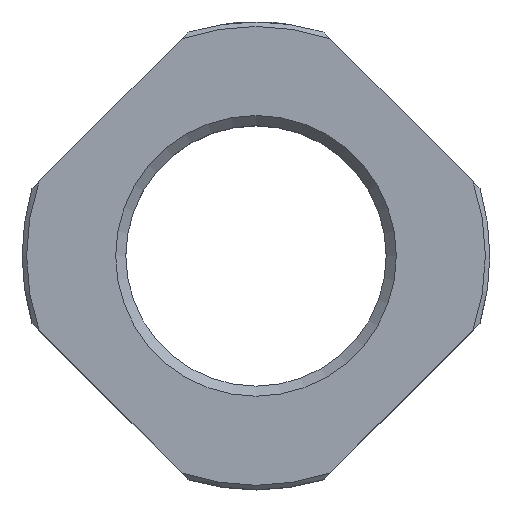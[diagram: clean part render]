
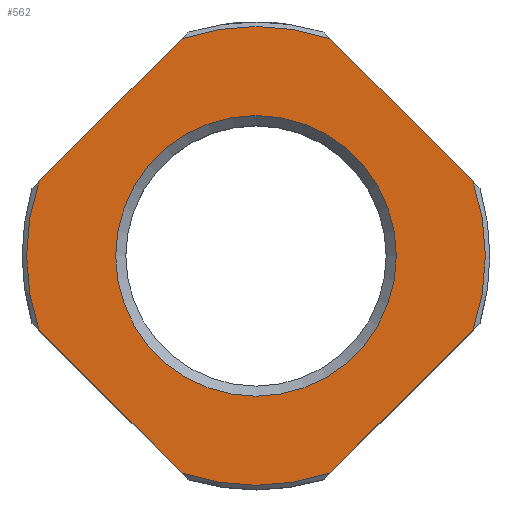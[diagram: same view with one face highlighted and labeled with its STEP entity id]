
A CAD part, top view. The second image highlights one B-rep face of the part: STEP entity #562.
In plain terms, the highlighted planar face has unit normal (0, 0, 1).
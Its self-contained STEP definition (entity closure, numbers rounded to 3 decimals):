
#32=PLANE('',#617);
#50=LINE('',#878,#84);
#51=LINE('',#882,#85);
#52=LINE('',#886,#86);
#53=LINE('',#890,#87);
#84=VECTOR('',#697,1000.);
#85=VECTOR('',#700,1000.);
#86=VECTOR('',#703,1000.);
#87=VECTOR('',#706,1000.);
#146=ORIENTED_EDGE('',*,*,#300,.F.);
#147=ORIENTED_EDGE('',*,*,#301,.T.);
#148=ORIENTED_EDGE('',*,*,#302,.F.);
#149=ORIENTED_EDGE('',*,*,#303,.T.);
#150=ORIENTED_EDGE('',*,*,#304,.F.);
#151=ORIENTED_EDGE('',*,*,#305,.T.);
#152=ORIENTED_EDGE('',*,*,#306,.F.);
#153=ORIENTED_EDGE('',*,*,#307,.T.);
#154=ORIENTED_EDGE('',*,*,#308,.T.);
#300=EDGE_CURVE('',#378,#379,#430,.T.);
#301=EDGE_CURVE('',#378,#380,#50,.T.);
#302=EDGE_CURVE('',#381,#380,#431,.T.);
#303=EDGE_CURVE('',#381,#382,#51,.T.);
#304=EDGE_CURVE('',#383,#382,#432,.T.);
#305=EDGE_CURVE('',#383,#384,#52,.T.);
#306=EDGE_CURVE('',#385,#384,#433,.T.);
#307=EDGE_CURVE('',#385,#379,#53,.T.);
#308=EDGE_CURVE('',#386,#386,#434,.T.);
#378=VERTEX_POINT('',#876);
#379=VERTEX_POINT('',#877);
#380=VERTEX_POINT('',#879);
#381=VERTEX_POINT('',#881);
#382=VERTEX_POINT('',#883);
#383=VERTEX_POINT('',#885);
#384=VERTEX_POINT('',#887);
#385=VERTEX_POINT('',#889);
#386=VERTEX_POINT('',#892);
#430=CIRCLE('',#618,12.26);
#431=CIRCLE('',#619,12.26);
#432=CIRCLE('',#620,12.26);
#433=CIRCLE('',#621,12.26);
#434=CIRCLE('',#622,7.5);
#459=EDGE_LOOP('',(#146,#147,#148,#149,#150,#151,#152,#153));
#460=EDGE_LOOP('',(#154));
#509=FACE_BOUND('',#459,.T.);
#510=FACE_BOUND('',#460,.T.);
#562=ADVANCED_FACE('',(#509,#510),#32,.F.);
#617=AXIS2_PLACEMENT_3D('',#874,#693,#694);
#618=AXIS2_PLACEMENT_3D('',#875,#695,#696);
#619=AXIS2_PLACEMENT_3D('',#880,#698,#699);
#620=AXIS2_PLACEMENT_3D('',#884,#701,#702);
#621=AXIS2_PLACEMENT_3D('',#888,#704,#705);
#622=AXIS2_PLACEMENT_3D('',#891,#707,#708);
#693=DIRECTION('',(0.,0.,-1.));
#694=DIRECTION('',(-1.,0.,0.));
#695=DIRECTION('',(0.,0.,-1.));
#696=DIRECTION('',(-1.,0.,0.));
#697=DIRECTION('',(-0.707,-0.707,0.));
#698=DIRECTION('',(0.,0.,-1.));
#699=DIRECTION('',(-1.,0.,0.));
#700=DIRECTION('',(0.707,-0.707,0.));
#701=DIRECTION('',(0.,0.,-1.));
#702=DIRECTION('',(-1.,0.,0.));
#703=DIRECTION('',(0.707,0.707,0.));
#704=DIRECTION('',(0.,0.,-1.));
#705=DIRECTION('',(-1.,0.,0.));
#706=DIRECTION('',(-0.707,0.707,0.));
#707=DIRECTION('',(0.,0.,-1.));
#708=DIRECTION('',(-1.,0.,0.));
#874=CARTESIAN_POINT('',(0.,0.,8.));
#875=CARTESIAN_POINT('',(0.,0.,8.));
#876=CARTESIAN_POINT('',(-3.95,11.606,8.));
#877=CARTESIAN_POINT('',(3.95,11.606,8.));
#878=CARTESIAN_POINT('',(0.,15.556,8.));
#879=CARTESIAN_POINT('',(-11.606,3.95,8.));
#880=CARTESIAN_POINT('',(0.,0.,8.));
#881=CARTESIAN_POINT('',(-11.606,-3.95,8.));
#882=CARTESIAN_POINT('',(-15.556,0.,8.));
#883=CARTESIAN_POINT('',(-3.95,-11.606,8.));
#884=CARTESIAN_POINT('',(0.,0.,8.));
#885=CARTESIAN_POINT('',(3.95,-11.606,8.));
#886=CARTESIAN_POINT('',(0.,-15.556,8.));
#887=CARTESIAN_POINT('',(11.606,-3.95,8.));
#888=CARTESIAN_POINT('',(0.,0.,8.));
#889=CARTESIAN_POINT('',(11.606,3.95,8.));
#890=CARTESIAN_POINT('',(15.556,0.,8.));
#891=CARTESIAN_POINT('',(0.,0.,8.));
#892=CARTESIAN_POINT('',(-7.5,0.,8.));
